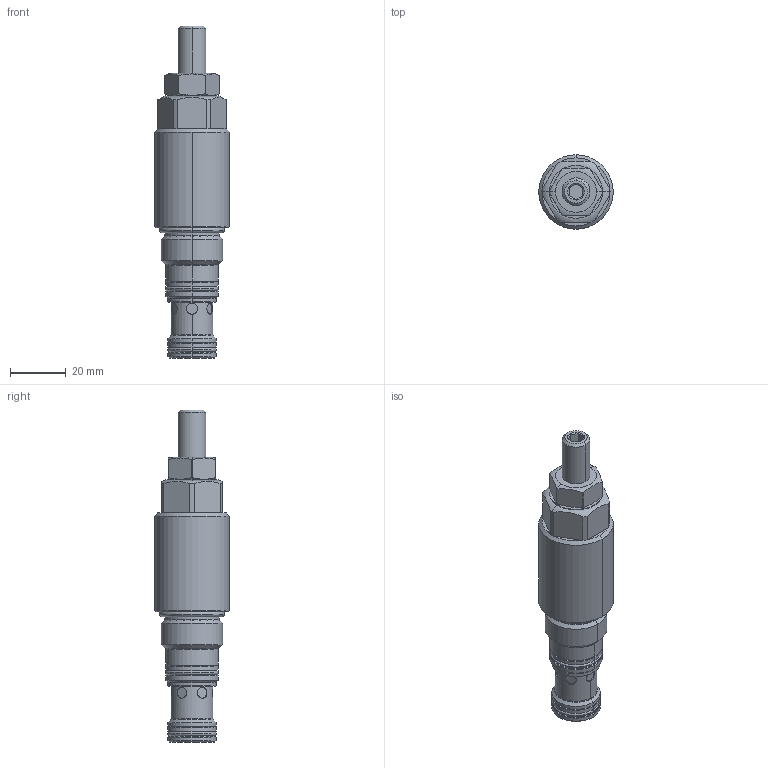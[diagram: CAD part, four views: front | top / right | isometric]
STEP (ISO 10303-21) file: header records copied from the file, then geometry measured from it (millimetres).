
FILE_DESCRIPTION((''),'2;1');
FILE_NAME('5619061_SW0001','2022-09-08T10:26:28',('JB5'),(''),'CREO PARAMETRIC BY PTC INC, 2021424','CREO PARAMETRIC BY PTC INC, 2021424','');
FILE_SCHEMA(('CONFIG_CONTROL_DESIGN'));
Length unit declared in the file: millimetre
Products named in the file (1): 5619061_SW0001
Bounding box: 26.8 x 26.8 x 119.6 mm (x, y, z)
Volume: 40698.7 mm3; surface area: 9869.6 mm2
Topology: 1 solids, 1 shells, 174 faces, 383 edges, 236 vertices
Faces by surface type: cylinder 64, plane 54, cone 28, torus 20, revolution 8
Entity records: 5247 total; most frequent: CARTESIAN_POINT 1306, DIRECTION 871, ORIENTED_EDGE 766, EDGE_CURVE 383, AXIS2_PLACEMENT_3D 369, VERTEX_POINT 236, CIRCLE 202, EDGE_LOOP 199
